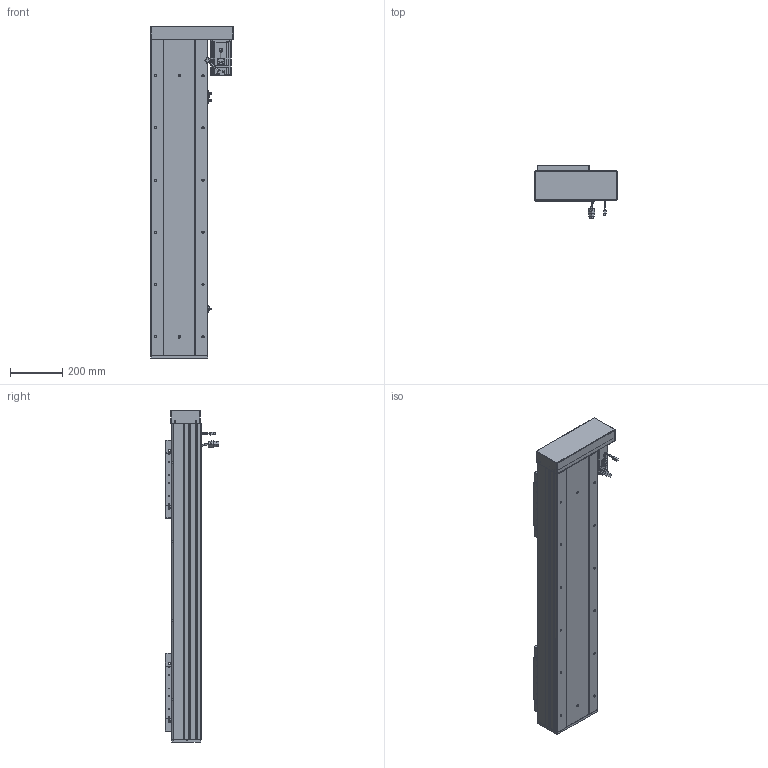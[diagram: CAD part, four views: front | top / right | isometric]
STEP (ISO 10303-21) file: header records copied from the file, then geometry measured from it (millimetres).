
FILE_DESCRIPTION (( 'STEP AP203' ), '1' );
FILE_NAME ('RY220F-L2525-300-RK.SLDASM_800.step', '2022-07-04T01:35:10', ( '' ), ( '' ), 'SwSTEP 2.0', 'SolidWorks 2016', '' );
FILE_SCHEMA (( 'CONFIG_CONTROL_DESIGN' ));
Length unit declared in the file: millimetre
Products named in the file (15): RY220F綴裔啣; RY220F-L2525-300-RK.SLDASM_800; RY220F-滅鳥奻裔; 怢湛750W_ECMA-CX0807ES; RY220F臏賑釱25-32佪裝; RY220酘衵殏萇儂欶; RY220F-672覜茼んえ; RY220左右折电机安装板; RY220F蛌殏菁釱-300_800; RY220F-祥凄詩湍-蛌殏-300_800; RY220F-詩湍揤踡輸; 滅袉蝶18-24; 侐源滅袉蝶; 覜茼ん672; RY220F-蛌殏奻裔啣-300_800
Assembly tree (24 placements, depth 2):
  RY220F-L2525-300-RK.SLDASM_800
    RY220F蛌殏菁釱-300_800
    RY220F-蛌殏奻裔啣-300_800  x2
    怢湛750W_ECMA-CX0807ES
    RY220F臏賑釱25-32佪裝  x2
    RY220F-滅鳥奻裔  x2
    滅袉蝶18-24  x3
    RY220F綴裔啣
    RY220F-祥凄詩湍-蛌殏-300_800
    RY220F-詩湍揤踡輸  x2
    覜茼ん672  x3
    RY220F-672覜茼んえ  x2
    RY220左右折电机安装板
    RY220酘衵殏萇儂欶
    侐源滅袉蝶  x2
Bounding box: 317.5 x 205.27 x 1271 mm (x, y, z)
Volume: 13132608.8 mm3; surface area: 3402358.2 mm2
Topology: 25 solids, 25 shells, 2700 faces, 7356 edges, 4570 vertices
Faces by surface type: cylinder 1210, plane 1044, cone 375, bspline 45, sphere 16, torus 10
Entity records: 66832 total; most frequent: CARTESIAN_POINT 18343, ORIENTED_EDGE 9822, DIRECTION 9476, EDGE_CURVE 4911, AXIS2_PLACEMENT_3D 3354, VERTEX_POINT 3186, VECTOR 2768, LINE 2768
